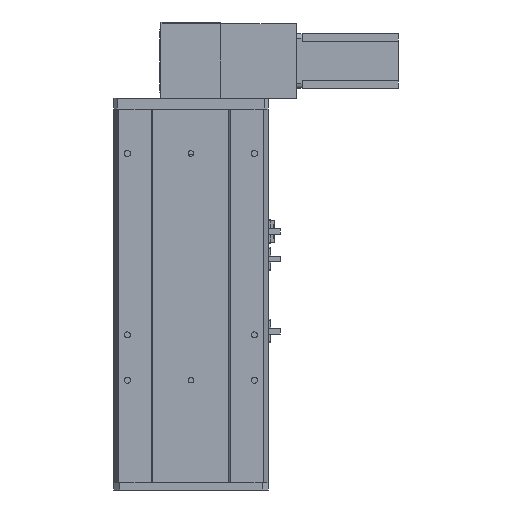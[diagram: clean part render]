
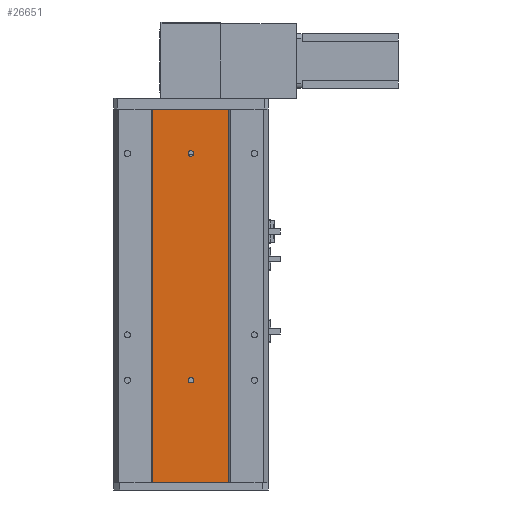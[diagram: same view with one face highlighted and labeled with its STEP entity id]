
A CAD part, front view. The second image highlights one B-rep face of the part: STEP entity #26651.
In plain terms, the highlighted planar face has unit normal (0, -1, 0).
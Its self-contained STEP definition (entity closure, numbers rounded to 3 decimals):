
#164 = EDGE_CURVE ( 'NONE', #3262, #6876, #11797, .T. ) ;
#336 = DIRECTION ( 'NONE',  ( 0., 1., 0. ) ) ;
#361 = ORIENTED_EDGE ( 'NONE', *, *, #2982, .T. ) ;
#1108 = DIRECTION ( 'NONE',  ( 0., 0., 1. ) ) ;
#2006 = EDGE_CURVE ( 'NONE', #2769, #27305, #25784, .T. ) ;
#2017 = CARTESIAN_POINT ( 'NONE',  ( 85., 2.57, 363. ) ) ;
#2350 = ORIENTED_EDGE ( 'NONE', *, *, #9952, .F. ) ;
#2769 = VERTEX_POINT ( 'NONE', #7671 ) ;
#2982 = EDGE_CURVE ( 'NONE', #12307, #22271, #11084, .T. ) ;
#3262 = VERTEX_POINT ( 'NONE', #19853 ) ;
#3436 = ORIENTED_EDGE ( 'NONE', *, *, #6378, .T. ) ;
#3535 = DIRECTION ( 'NONE',  ( 0., 1., 0. ) ) ;
#3737 = ORIENTED_EDGE ( 'NONE', *, *, #12791, .T. ) ;
#5209 = CARTESIAN_POINT ( 'NONE',  ( 85., 2.57, 113. ) ) ;
#5309 = DIRECTION ( 'NONE',  ( 0., 1., 0. ) ) ;
#5409 = DIRECTION ( 'NONE',  ( 0., 0., 1. ) ) ;
#6378 = EDGE_CURVE ( 'NONE', #16616, #6876, #19908, .T. ) ;
#6876 = VERTEX_POINT ( 'NONE', #7976 ) ;
#7671 = CARTESIAN_POINT ( 'NONE',  ( 85., 2.57, 366. ) ) ;
#7976 = CARTESIAN_POINT ( 'NONE',  ( 42.916, 2.57, 412. ) ) ;
#8696 = EDGE_LOOP ( 'NONE', ( #3737, #25532 ) ) ;
#9823 = EDGE_LOOP ( 'NONE', ( #20591, #361 ) ) ;
#9952 = EDGE_CURVE ( 'NONE', #19781, #3262, #23924, .T. ) ;
#10720 = CARTESIAN_POINT ( 'NONE',  ( 42.916, 2.57, 0. ) ) ;
#10962 = DIRECTION ( 'NONE',  ( -1., 0., 0. ) ) ;
#11084 = CIRCLE ( 'NONE', #26274, 3. ) ;
#11797 = LINE ( 'NONE', #22267, #22442 ) ;
#11999 = CARTESIAN_POINT ( 'NONE',  ( 126.916, 2.57, 412. ) ) ;
#12307 = VERTEX_POINT ( 'NONE', #17109 ) ;
#12791 = EDGE_CURVE ( 'NONE', #27305, #2769, #24131, .T. ) ;
#13524 = EDGE_CURVE ( 'NONE', #22271, #12307, #17070, .T. ) ;
#14214 = VECTOR ( 'NONE', #14277, 1000. ) ;
#14277 = DIRECTION ( 'NONE',  ( -1., 0., 0. ) ) ;
#14497 = CARTESIAN_POINT ( 'NONE',  ( 42.916, 2.57, 412. ) ) ;
#14770 = AXIS2_PLACEMENT_3D ( 'NONE', #17849, #16096, #15879 ) ;
#15504 = EDGE_CURVE ( 'NONE', #19781, #16616, #15997, .T. ) ;
#15545 = DIRECTION ( 'NONE',  ( 0., 0., 1. ) ) ;
#15879 = DIRECTION ( 'NONE',  ( 0., 0., 1. ) ) ;
#15997 = LINE ( 'NONE', #19132, #20990 ) ;
#16096 = DIRECTION ( 'NONE',  ( 0., 1., 0. ) ) ;
#16461 = CARTESIAN_POINT ( 'NONE',  ( 85., 2.57, 113. ) ) ;
#16607 = CARTESIAN_POINT ( 'NONE',  ( 126.916, 2.57, 0. ) ) ;
#16616 = VERTEX_POINT ( 'NONE', #11999 ) ;
#17070 = CIRCLE ( 'NONE', #19443, 3. ) ;
#17109 = CARTESIAN_POINT ( 'NONE',  ( 85., 2.57, 116. ) ) ;
#17849 = CARTESIAN_POINT ( 'NONE',  ( 85., 2.57, 363. ) ) ;
#18107 = AXIS2_PLACEMENT_3D ( 'NONE', #25907, #336, #15545 ) ;
#18405 = VECTOR ( 'NONE', #10962, 1000. ) ;
#18599 = DIRECTION ( 'NONE',  ( 0., 0., 1. ) ) ;
#19132 = CARTESIAN_POINT ( 'NONE',  ( 126.916, 2.57, 0. ) ) ;
#19443 = AXIS2_PLACEMENT_3D ( 'NONE', #16461, #3535, #18599 ) ;
#19781 = VERTEX_POINT ( 'NONE', #16607 ) ;
#19853 = CARTESIAN_POINT ( 'NONE',  ( 42.916, 2.57, 0. ) ) ;
#19908 = LINE ( 'NONE', #14497, #14214 ) ;
#20591 = ORIENTED_EDGE ( 'NONE', *, *, #13524, .T. ) ;
#20987 = AXIS2_PLACEMENT_3D ( 'NONE', #2017, #26994, #1108 ) ;
#20990 = VECTOR ( 'NONE', #21240, 1000. ) ;
#21240 = DIRECTION ( 'NONE',  ( 0., 0., 1. ) ) ;
#21581 = EDGE_LOOP ( 'NONE', ( #3436, #27095, #2350, #26272 ) ) ;
#21610 = DIRECTION ( 'NONE',  ( 0., 0., 1. ) ) ;
#21702 = FACE_BOUND ( 'NONE', #8696, .T. ) ;
#21834 = PLANE ( 'NONE',  #18107 ) ;
#22267 = CARTESIAN_POINT ( 'NONE',  ( 42.916, 2.57, 0. ) ) ;
#22271 = VERTEX_POINT ( 'NONE', #24107 ) ;
#22355 = FACE_BOUND ( 'NONE', #9823, .T. ) ;
#22442 = VECTOR ( 'NONE', #21610, 1000. ) ;
#23924 = LINE ( 'NONE', #10720, #18405 ) ;
#24107 = CARTESIAN_POINT ( 'NONE',  ( 85., 2.57, 110. ) ) ;
#24131 = CIRCLE ( 'NONE', #14770, 3. ) ;
#24219 = CARTESIAN_POINT ( 'NONE',  ( 85., 2.57, 360. ) ) ;
#25532 = ORIENTED_EDGE ( 'NONE', *, *, #2006, .T. ) ;
#25784 = CIRCLE ( 'NONE', #20987, 3. ) ;
#25907 = CARTESIAN_POINT ( 'NONE',  ( 42.916, 2.57, 0. ) ) ;
#26272 = ORIENTED_EDGE ( 'NONE', *, *, #15504, .T. ) ;
#26274 = AXIS2_PLACEMENT_3D ( 'NONE', #5209, #5309, #5409 ) ;
#26651 = ADVANCED_FACE ( 'NONE', ( #21702, #22355, #27084 ), #21834, .F. ) ;
#26994 = DIRECTION ( 'NONE',  ( 0., 1., 0. ) ) ;
#27084 = FACE_OUTER_BOUND ( 'NONE', #21581, .T. ) ;
#27095 = ORIENTED_EDGE ( 'NONE', *, *, #164, .F. ) ;
#27305 = VERTEX_POINT ( 'NONE', #24219 ) ;
